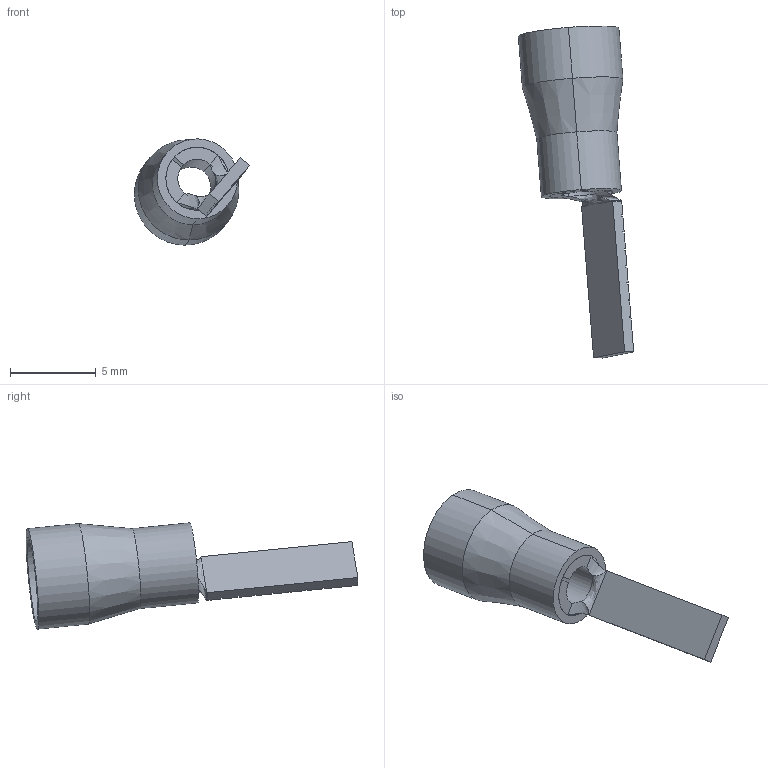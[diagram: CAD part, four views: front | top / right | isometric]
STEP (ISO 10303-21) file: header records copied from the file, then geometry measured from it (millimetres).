
FILE_DESCRIPTION (( 'STEP AP214' ), '1' );
FILE_NAME ('278021 OptiKit T-Shp-PVC-1,5-2,5.STEP', '2020-02-19T10:45:15', ( '' ), ( '' ), 'SwSTEP 2.0', 'SolidWorks 2018', '' );
FILE_SCHEMA (( 'AUTOMOTIVE_DESIGN' ));
Length unit declared in the file: millimetre
Products named in the file (3): Îïëåòêà 4,9; 阹懟 1,5-2,5; 278021 OptiKit T-Shp-PVC-1,5-2,5
Assembly tree (2 placements, depth 2):
  278021 OptiKit T-Shp-PVC-1,5-2,5
    阹懟 1,5-2,5
    Îïëåòêà 4,9
Bounding box: 6.74 x 19.41 x 6.21 mm (x, y, z)
Volume: 129.2 mm3; surface area: 472.6 mm2
Topology: 2 solids, 2 shells, 67 faces, 173 edges, 108 vertices
Faces by surface type: plane 40, cylinder 14, bspline 9, cone 4
Entity records: 2441 total; most frequent: CARTESIAN_POINT 792, ORIENTED_EDGE 338, DIRECTION 293, EDGE_CURVE 169, LINE 119, VECTOR 119, VERTEX_POINT 107, AXIS2_PLACEMENT_3D 87
